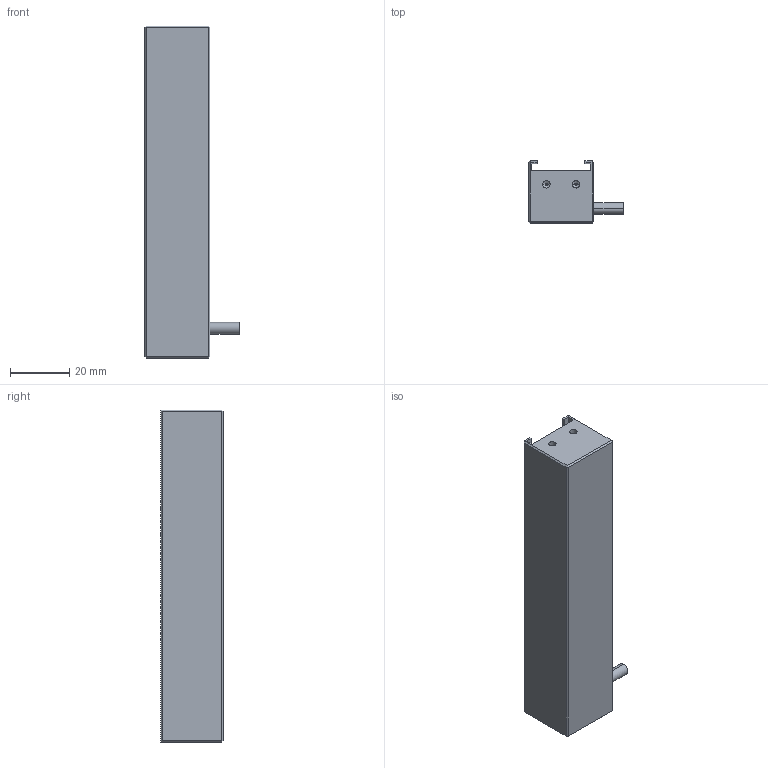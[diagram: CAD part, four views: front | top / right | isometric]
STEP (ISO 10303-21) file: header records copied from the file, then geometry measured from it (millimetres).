
FILE_DESCRIPTION (( 'STEP AP203' ), '1' );
FILE_NAME ('TR11222-W.STEP', '2021-10-14T01:26:45', ( 'Windows 蚚誧' ), ( 'Microsoft' ), 'SwSTEP 2.0', 'SolidWorks 2016', '' );
FILE_SCHEMA (( 'CONFIG_CONTROL_DESIGN' ));
Length unit declared in the file: millimetre
Products named in the file (1): TR11222-W
Bounding box: 32 x 21 x 112 mm (x, y, z)
Volume: 34057.8 mm3; surface area: 16772.8 mm2
Topology: 1 solids, 1 shells, 497 faces, 1266 edges, 773 vertices
Faces by surface type: cylinder 266, sphere 126, plane 97, cone 8
Entity records: 13391 total; most frequent: DIRECTION 2676, CARTESIAN_POINT 2159, ORIENTED_EDGE 2028, AXIS2_PLACEMENT_3D 1164, EDGE_CURVE 1014, CIRCLE 666, VERTEX_POINT 647, EDGE_LOOP 633
